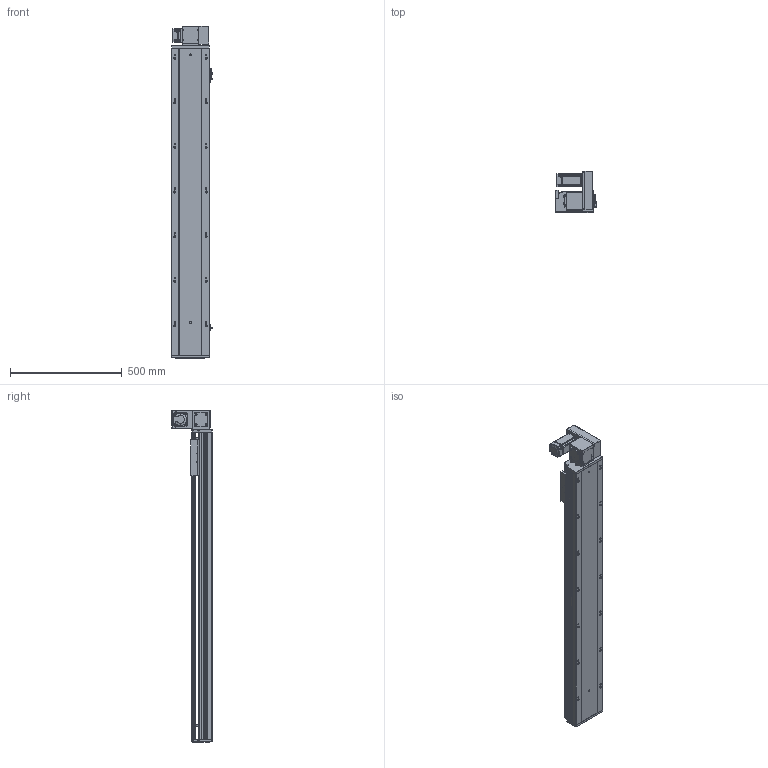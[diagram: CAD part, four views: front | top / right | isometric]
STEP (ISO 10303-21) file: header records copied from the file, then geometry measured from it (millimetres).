
FILE_DESCRIPTION (( 'STEP AP203' ), '1' );
FILE_NAME ('RY170-T-300-UR-P400W.SLDASM_1100.step', '2021-03-01T09:27:47', ( '盈信电脑' ), ( '东莞市道滘镇水果街19号' ), 'SwSTEP 2.0', 'SolidWorks 2012', '' );
FILE_SCHEMA (( 'CONFIG_CONTROL_DESIGN' ));
Length unit declared in the file: millimetre
Products named in the file (18): RY170-T-300-UR-P400W.SLDASM_1100; 15; 滅袉蝶18-10; RY170-T蹟翐M4; RY170-T肮祭湍揤踡輸1; RY120-T主同步轮轴承压盖; RY170-T肮祭謫裔啣; RY170-T肮祭湍揤踡輸2; RY170同步轮电机安装板(400W); RY170肮祭謫ヶ裔啣; RY170肮祭謫萇儂欶; RY170翋肮祭謫釱; RY170綴裔啣; 覜茼ん672; RY170-T-300肮祭謫倰第裔啣-DR_1100; RY170外置感应片(200共用）; RY170-T-300肮祭謫倰第菁釱-DR_1100; RY170肮祭湍臏賑輸
Assembly tree (22 placements, depth 2):
  RY170-T-300-UR-P400W.SLDASM_1100
    RY170-T-300肮祭謫倰第菁釱-DR_1100
    RY170肮祭湍臏賑輸
    RY170-T-300肮祭謫倰第裔啣-DR_1100
    RY170綴裔啣
    覜茼ん672  x3
    RY170外置感应片(200共用）
    RY170肮祭謫ヶ裔啣
    RY170翋肮祭謫釱
    RY170同步轮电机安装板(400W)
    RY170肮祭謫萇儂欶
    RY170-T肮祭湍揤踡輸1  x2
    RY170-T肮祭湍揤踡輸2  x2
    RY120-T主同步轮轴承压盖
    RY170-T肮祭謫裔啣
    RY170-T蹟翐M4
    滅袉蝶18-10  x2
    15
Bounding box: 183.7 x 182 x 1488 mm (x, y, z)
Volume: 7339400.8 mm3; surface area: 2491168.2 mm2
Topology: 22 solids, 22 shells, 2752 faces, 7614 edges, 4881 vertices
Faces by surface type: plane 1260, cylinder 1218, cone 244, bspline 30
Entity records: 81520 total; most frequent: CARTESIAN_POINT 17940, ORIENTED_EDGE 12920, DIRECTION 12778, EDGE_CURVE 6460, AXIS2_PLACEMENT_3D 4489, VERTEX_POINT 4237, LINE 3800, VECTOR 3800
